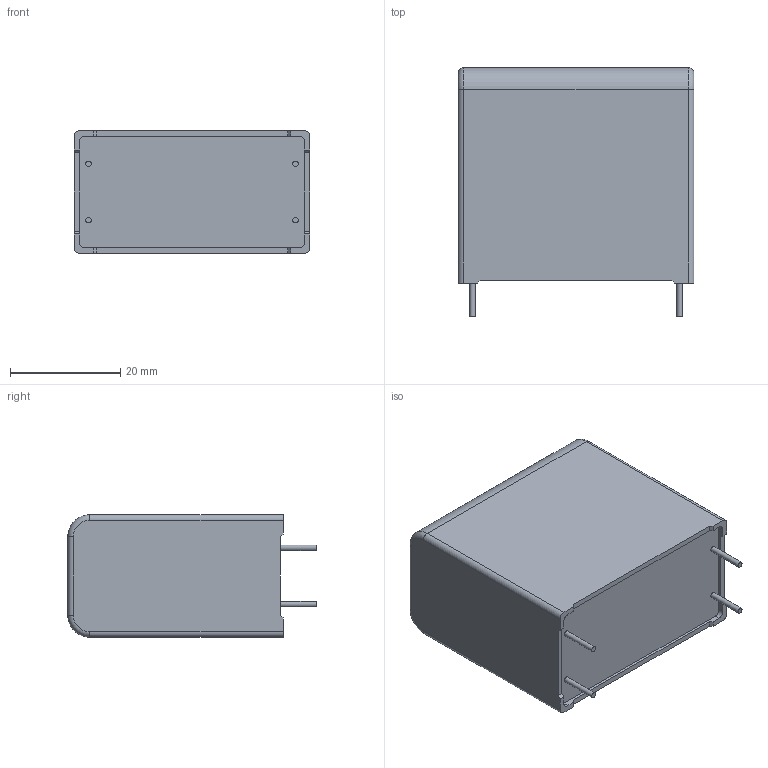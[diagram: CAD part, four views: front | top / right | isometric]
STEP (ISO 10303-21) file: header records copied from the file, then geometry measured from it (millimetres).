
FILE_DESCRIPTION (( 'STEP AP203' ), '1' );
FILE_NAME ('MKP1847H61025+P4.step', '2018-01-17T10:51:55', ( 'work' ), ( 'Hewlett-Packard Company' ), 'SwSTEP 2.0', 'SolidWorks 2017', '' );
FILE_SCHEMA (( 'CONFIG_CONTROL_DESIGN' ));
Length unit declared in the file: millimetre
Products named in the file (1): MKP1847H61025+P4
Bounding box: 42.7 x 45 x 22.2 mm (x, y, z)
Volume: 35786 mm3; surface area: 6823.4 mm2
Topology: 1 solids, 1 shells, 118 faces, 311 edges, 206 vertices
Faces by surface type: plane 82, cylinder 16, bspline 16, torus 4
Full cylindrical faces by diameter (mm): 1 x4
Entity records: 4332 total; most frequent: CARTESIAN_POINT 1448, ORIENTED_EDGE 606, DIRECTION 513, EDGE_CURVE 303, LINE 235, VECTOR 235, VERTEX_POINT 202, AXIS2_PLACEMENT_3D 139
